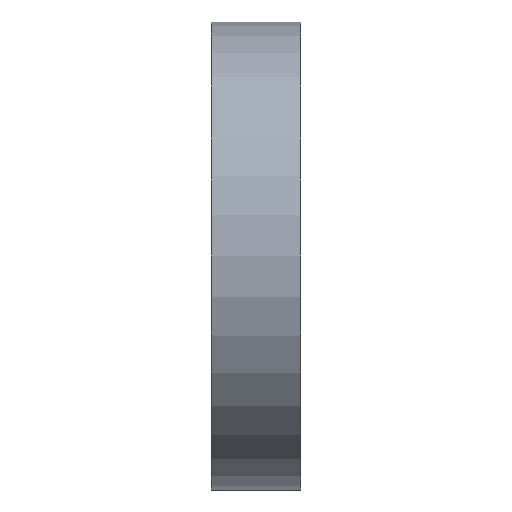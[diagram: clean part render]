
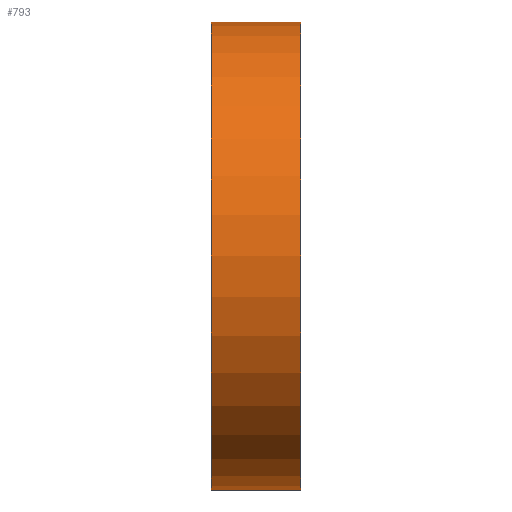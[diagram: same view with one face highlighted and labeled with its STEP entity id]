
A CAD part, left-side view. The second image highlights one B-rep face of the part: STEP entity #793.
In plain terms, the highlighted cylindrical face has radius 21 mm (diameter 42 mm), a partial arc.
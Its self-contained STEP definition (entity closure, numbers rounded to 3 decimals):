
#30 = CARTESIAN_POINT ( 'NONE',  ( 0., 4., 21. ) ) ;
#50 = EDGE_CURVE ( 'NONE', #418, #590, #762, .T. ) ;
#102 = DIRECTION ( 'NONE',  ( 0., 1., 0. ) ) ;
#108 = ORIENTED_EDGE ( 'NONE', *, *, #283, .T. ) ;
#123 = AXIS2_PLACEMENT_3D ( 'NONE', #824, #880, #750 ) ;
#131 = CARTESIAN_POINT ( 'NONE',  ( 0., 0., 21. ) ) ;
#134 = CARTESIAN_POINT ( 'NONE',  ( 0., -4., 21. ) ) ;
#136 = DIRECTION ( 'NONE',  ( 0., 1., 0. ) ) ;
#149 = CARTESIAN_POINT ( 'NONE',  ( 0., 4., -21. ) ) ;
#174 = CARTESIAN_POINT ( 'NONE',  ( 0., 0., 0. ) ) ;
#190 = DIRECTION ( 'NONE',  ( 0., 1., 0. ) ) ;
#241 = DIRECTION ( 'NONE',  ( 0., 0., 1. ) ) ;
#252 = EDGE_CURVE ( 'NONE', #418, #302, #259, .T. ) ;
#259 = CIRCLE ( 'NONE', #123, 21. ) ;
#275 = DIRECTION ( 'NONE',  ( 0., 0., 1. ) ) ;
#283 = EDGE_CURVE ( 'NONE', #302, #713, #386, .T. ) ;
#293 = EDGE_CURVE ( 'NONE', #590, #713, #799, .T. ) ;
#302 = VERTEX_POINT ( 'NONE', #134 ) ;
#386 = LINE ( 'NONE', #131, #714 ) ;
#418 = VERTEX_POINT ( 'NONE', #626 ) ;
#473 = CARTESIAN_POINT ( 'NONE',  ( 0., 4., 0. ) ) ;
#518 = CYLINDRICAL_SURFACE ( 'NONE', #816, 21. ) ;
#542 = ORIENTED_EDGE ( 'NONE', *, *, #252, .T. ) ;
#565 = FACE_OUTER_BOUND ( 'NONE', #808, .T. ) ;
#590 = VERTEX_POINT ( 'NONE', #149 ) ;
#626 = CARTESIAN_POINT ( 'NONE',  ( 0., -4., -21. ) ) ;
#679 = DIRECTION ( 'NONE',  ( 0., 1., 0. ) ) ;
#701 = VECTOR ( 'NONE', #679, 1000. ) ;
#713 = VERTEX_POINT ( 'NONE', #30 ) ;
#714 = VECTOR ( 'NONE', #136, 1000. ) ;
#717 = ORIENTED_EDGE ( 'NONE', *, *, #293, .F. ) ;
#729 = CARTESIAN_POINT ( 'NONE',  ( 0., 0., -21. ) ) ;
#741 = AXIS2_PLACEMENT_3D ( 'NONE', #473, #190, #275 ) ;
#750 = DIRECTION ( 'NONE',  ( 0., 0., 1. ) ) ;
#762 = LINE ( 'NONE', #729, #701 ) ;
#793 = ADVANCED_FACE ( 'NONE', ( #565 ), #518, .T. ) ;
#799 = CIRCLE ( 'NONE', #741, 21. ) ;
#808 = EDGE_LOOP ( 'NONE', ( #856, #542, #108, #717 ) ) ;
#816 = AXIS2_PLACEMENT_3D ( 'NONE', #174, #102, #241 ) ;
#824 = CARTESIAN_POINT ( 'NONE',  ( 0., -4., 0. ) ) ;
#856 = ORIENTED_EDGE ( 'NONE', *, *, #50, .F. ) ;
#880 = DIRECTION ( 'NONE',  ( 0., 1., 0. ) ) ;
